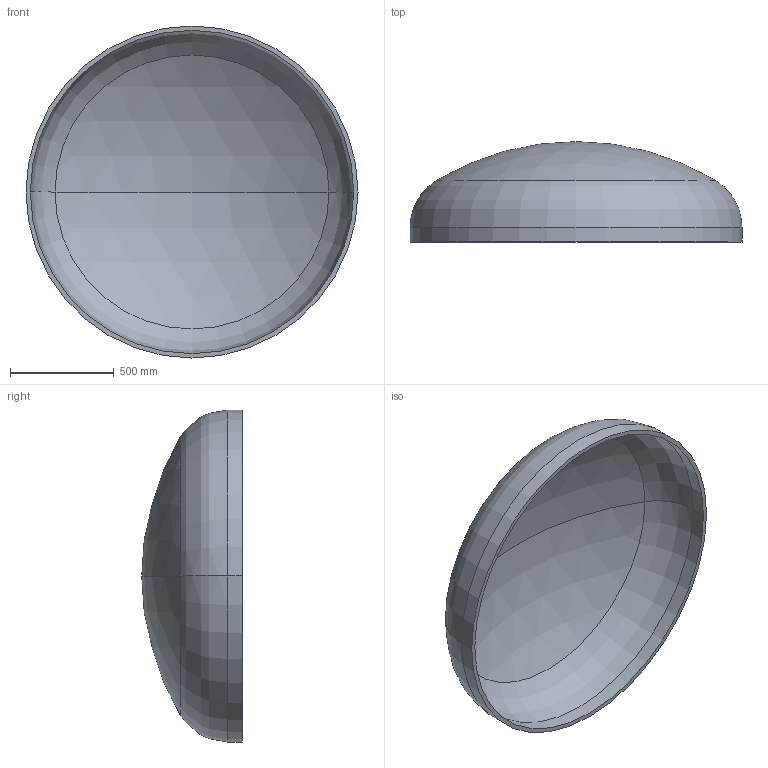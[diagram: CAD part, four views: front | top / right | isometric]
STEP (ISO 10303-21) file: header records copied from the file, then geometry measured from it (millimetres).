
FILE_DESCRIPTION (( 'STEP AP203' ), '1' );
FILE_NAME ('DIN 28013 Korbbogenform_-_Boden DIN 28013 - 1600 x 70 - I - s=21.step', '2016-07-01T11:08:38', ( '' ), ( '' ), 'SwSTEP 2.0', 'SolidWorks 2013', '' );
FILE_SCHEMA (( 'CONFIG_CONTROL_DESIGN' ));
Length unit declared in the file: millimetre
Products named in the file (1): DIN 28013 Korbbogenform_-_Boden DIN 28013 - 1600 x 70 - I - s=21
Bounding box: 1600 x 484.39 x 1600 mm (x, y, z)
Volume: 64700320.9 mm3; surface area: 6267028.9 mm2
Topology: 1 solids, 1 shells, 13 faces, 24 edges, 14 vertices
Faces by surface type: torus 4, cylinder 4, sphere 4, plane 1
Entity records: 407 total; most frequent: DIRECTION 72, CARTESIAN_POINT 52, ORIENTED_EDGE 48, AXIS2_PLACEMENT_3D 34, EDGE_CURVE 24, CIRCLE 20, EDGE_LOOP 14, VERTEX_POINT 14
